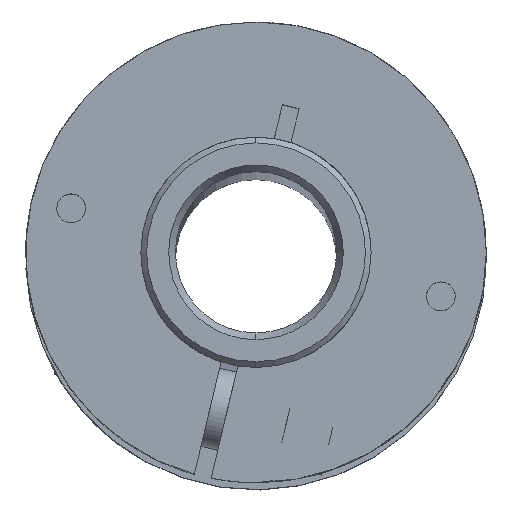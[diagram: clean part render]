
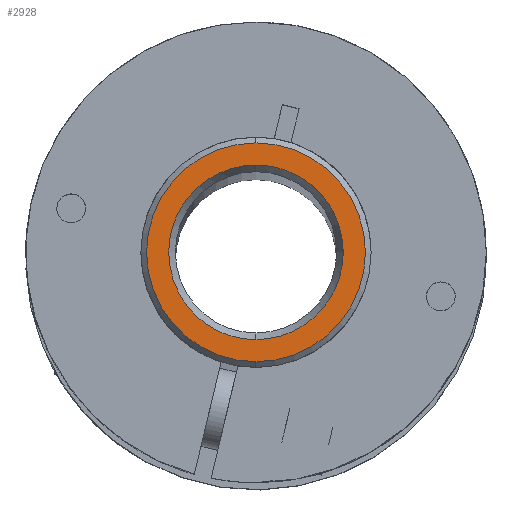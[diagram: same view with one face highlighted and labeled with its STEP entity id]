
A CAD part, top view. The second image highlights one B-rep face of the part: STEP entity #2928.
In plain terms, the highlighted planar face has unit normal (0, 0, 1).
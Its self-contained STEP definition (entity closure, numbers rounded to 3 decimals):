
#17 = CARTESIAN_POINT ( 'NONE',  ( 1.807, 7.414, -104. ) ) ;
#35 = CARTESIAN_POINT ( 'NONE',  ( 0., 0., -104. ) ) ;
#81 = DIRECTION ( 'NONE',  ( 0., -1., 0. ) ) ;
#141 = CARTESIAN_POINT ( 'NONE',  ( -3.5, -6.781, -104. ) ) ;
#156 = CARTESIAN_POINT ( 'NONE',  ( 7.503, 1.055, -104. ) ) ;
#235 = CARTESIAN_POINT ( 'NONE',  ( -7.572, 1.117, -104. ) ) ;
#262 = DIRECTION ( 'NONE',  ( 0., 0., -1. ) ) ;
#404 = FACE_BOUND ( 'NONE', #2021, .T. ) ;
#445 = VERTEX_POINT ( 'NONE', #1599 ) ;
#453 = CIRCLE ( 'NONE', #2288, 9.5 ) ;
#486 = CARTESIAN_POINT ( 'NONE',  ( -5.01, 5.786, -104. ) ) ;
#505 = CARTESIAN_POINT ( 'NONE',  ( 0., 0., -104. ) ) ;
#526 = DIRECTION ( 'NONE',  ( 0., 0., -1. ) ) ;
#534 = DIRECTION ( 'NONE',  ( 0., -1., 0. ) ) ;
#633 = AXIS2_PLACEMENT_3D ( 'NONE', #505, #526, #534 ) ;
#659 = CARTESIAN_POINT ( 'NONE',  ( 0., 7.577, -104. ) ) ;
#918 = DIRECTION ( 'NONE',  ( -1., 0., 0. ) ) ;
#1151 = CARTESIAN_POINT ( 'NONE',  ( -7.504, -1.055, -104. ) ) ;
#1171 = EDGE_CURVE ( 'NONE', #2452, #3451, #3346, .T. ) ;
#1310 = EDGE_CURVE ( 'NONE', #2718, #445, #453, .T. ) ;
#1423 = CARTESIAN_POINT ( 'NONE',  ( 5.653, 5.126, -104. ) ) ;
#1446 = EDGE_CURVE ( 'NONE', #2492, #2696, #1618, .T. ) ;
#1449 = CARTESIAN_POINT ( 'NONE',  ( 0., -7.577, -104. ) ) ;
#1477 = CARTESIAN_POINT ( 'NONE',  ( -7.378, -1.949, -104. ) ) ;
#1487 = ORIENTED_EDGE ( 'NONE', *, *, #2593, .F. ) ;
#1596 = CARTESIAN_POINT ( 'NONE',  ( 0., 7.577, -104. ) ) ;
#1599 = CARTESIAN_POINT ( 'NONE',  ( 0., -9.5, -104. ) ) ;
#1618 = B_SPLINE_CURVE_WITH_KNOTS ( 'NONE', 3,
 ( #659, #3266, #3638, #2931, #486, #2405, #2584, #235, #2049, #4065 ),
 .UNSPECIFIED., .F., .F.,
 ( 4, 2, 2, 2, 4 ),
 ( 0., 0.25, 0.5, 0.75, 1. ),
 .UNSPECIFIED. ) ;
#1644 = CARTESIAN_POINT ( 'NONE',  ( 7.378, 1.949, -104. ) ) ;
#1710 = CARTESIAN_POINT ( 'NONE',  ( 3.5, 6.781, -104. ) ) ;
#1722 = CARTESIAN_POINT ( 'NONE',  ( 0.903, 7.577, -104. ) ) ;
#1733 = CARTESIAN_POINT ( 'NONE',  ( 7.09, 2.821, -104. ) ) ;
#1936 = CARTESIAN_POINT ( 'NONE',  ( -1.807, -7.414, -104. ) ) ;
#2011 = EDGE_LOOP ( 'NONE', ( #3755, #2250 ) ) ;
#2021 = EDGE_LOOP ( 'NONE', ( #1487, #2113, #2758, #2662 ) ) ;
#2048 = CARTESIAN_POINT ( 'NONE',  ( -7.091, -2.821, -104. ) ) ;
#2049 = CARTESIAN_POINT ( 'NONE',  ( -7.654, 0.015, -104. ) ) ;
#2059 = CARTESIAN_POINT ( 'NONE',  ( -6.228, -4.41, -104. ) ) ;
#2062 = CARTESIAN_POINT ( 'NONE',  ( -5.653, -5.126, -104. ) ) ;
#2071 = CARTESIAN_POINT ( 'NONE',  ( -0.904, -7.577, -104. ) ) ;
#2077 = CARTESIAN_POINT ( 'NONE',  ( 0., -7.577, -104. ) ) ;
#2113 = ORIENTED_EDGE ( 'NONE', *, *, #1446, .F. ) ;
#2250 = ORIENTED_EDGE ( 'NONE', *, *, #1310, .F. ) ;
#2268 = CARTESIAN_POINT ( 'NONE',  ( -4.289, -6.312, -104. ) ) ;
#2288 = AXIS2_PLACEMENT_3D ( 'NONE', #35, #262, #81 ) ;
#2293 = CARTESIAN_POINT ( 'NONE',  ( -7.504, -1.055, -104. ) ) ;
#2294 = AXIS2_PLACEMENT_3D ( 'NONE', #3187, #2725, #918 ) ;
#2309 = CARTESIAN_POINT ( 'NONE',  ( 0., 9.5, -104. ) ) ;
#2405 = CARTESIAN_POINT ( 'NONE',  ( -6.428, 4.156, -104. ) ) ;
#2411 = CIRCLE ( 'NONE', #633, 9.5 ) ;
#2452 = VERTEX_POINT ( 'NONE', #1449 ) ;
#2492 = VERTEX_POINT ( 'NONE', #1596 ) ;
#2524 = EDGE_CURVE ( 'NONE', #3451, #2492, #3070, .T. ) ;
#2584 = CARTESIAN_POINT ( 'NONE',  ( -6.959, 3.188, -104. ) ) ;
#2593 = EDGE_CURVE ( 'NONE', #2696, #2452, #4031, .T. ) ;
#2662 = ORIENTED_EDGE ( 'NONE', *, *, #1171, .F. ) ;
#2696 = VERTEX_POINT ( 'NONE', #2293 ) ;
#2718 = VERTEX_POINT ( 'NONE', #2309 ) ;
#2721 = PLANE ( 'NONE',  #2294 ) ;
#2725 = DIRECTION ( 'NONE',  ( 0., 0., -1. ) ) ;
#2758 = ORIENTED_EDGE ( 'NONE', *, *, #2524, .F. ) ;
#2928 = ADVANCED_FACE ( 'NONE', ( #3056, #404 ), #2721, .F. ) ;
#2931 = CARTESIAN_POINT ( 'NONE',  ( -4.125, 6.447, -104. ) ) ;
#3056 = FACE_OUTER_BOUND ( 'NONE', #2011, .T. ) ;
#3070 = B_SPLINE_CURVE_WITH_KNOTS ( 'NONE', 3,
 ( #156, #1644, #1733, #3723, #1423, #3464, #1710, #17, #1722, #3227 ),
 .UNSPECIFIED., .F., .F.,
 ( 4, 2, 2, 2, 4 ),
 ( 0., 0.25, 0.5, 0.75, 1. ),
 .UNSPECIFIED. ) ;
#3142 = CARTESIAN_POINT ( 'NONE',  ( 7.503, 1.055, -104. ) ) ;
#3187 = CARTESIAN_POINT ( 'NONE',  ( 0., 0., -104. ) ) ;
#3207 = CARTESIAN_POINT ( 'NONE',  ( 2.159, -7.343, -104. ) ) ;
#3213 = CARTESIAN_POINT ( 'NONE',  ( 1.08, -7.577, -104. ) ) ;
#3218 = CARTESIAN_POINT ( 'NONE',  ( 0., -7.577, -104. ) ) ;
#3225 = CARTESIAN_POINT ( 'NONE',  ( 4.125, -6.447, -104. ) ) ;
#3227 = CARTESIAN_POINT ( 'NONE',  ( 0., 7.577, -104. ) ) ;
#3229 = CARTESIAN_POINT ( 'NONE',  ( 5.01, -5.786, -104. ) ) ;
#3232 = CARTESIAN_POINT ( 'NONE',  ( 6.427, -4.156, -104. ) ) ;
#3234 = CARTESIAN_POINT ( 'NONE',  ( 6.958, -3.188, -104. ) ) ;
#3241 = CARTESIAN_POINT ( 'NONE',  ( 7.572, -1.117, -104. ) ) ;
#3246 = CARTESIAN_POINT ( 'NONE',  ( 7.654, -0.015, -104. ) ) ;
#3249 = CARTESIAN_POINT ( 'NONE',  ( 7.503, 1.055, -104. ) ) ;
#3266 = CARTESIAN_POINT ( 'NONE',  ( -1.08, 7.577, -104. ) ) ;
#3346 = B_SPLINE_CURVE_WITH_KNOTS ( 'NONE', 3,
 ( #3218, #3213, #3207, #3225, #3229, #3232, #3234, #3241, #3246, #3249 ),
 .UNSPECIFIED., .F., .F.,
 ( 4, 2, 2, 2, 4 ),
 ( 0., 0.25, 0.5, 0.75, 1. ),
 .UNSPECIFIED. ) ;
#3451 = VERTEX_POINT ( 'NONE', #3142 ) ;
#3464 = CARTESIAN_POINT ( 'NONE',  ( 4.289, 6.312, -104. ) ) ;
#3638 = CARTESIAN_POINT ( 'NONE',  ( -2.16, 7.343, -104. ) ) ;
#3723 = CARTESIAN_POINT ( 'NONE',  ( 6.228, 4.41, -104. ) ) ;
#3745 = EDGE_CURVE ( 'NONE', #445, #2718, #2411, .T. ) ;
#3755 = ORIENTED_EDGE ( 'NONE', *, *, #3745, .F. ) ;
#4031 = B_SPLINE_CURVE_WITH_KNOTS ( 'NONE', 3,
 ( #1151, #1477, #2048, #2059, #2062, #2268, #141, #1936, #2071, #2077 ),
 .UNSPECIFIED., .F., .F.,
 ( 4, 2, 2, 2, 4 ),
 ( 0., 0.25, 0.5, 0.75, 1. ),
 .UNSPECIFIED. ) ;
#4065 = CARTESIAN_POINT ( 'NONE',  ( -7.504, -1.055, -104. ) ) ;
